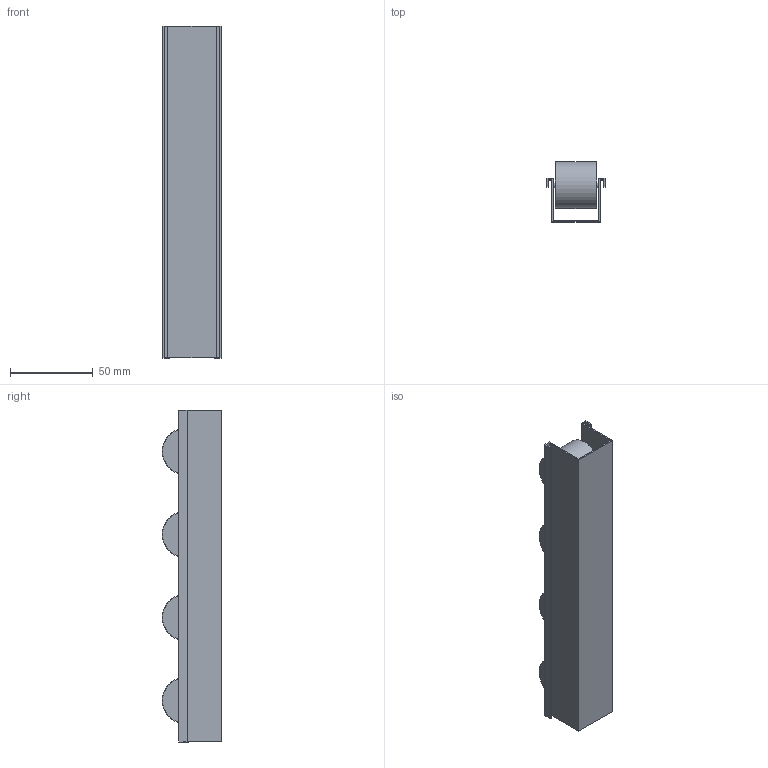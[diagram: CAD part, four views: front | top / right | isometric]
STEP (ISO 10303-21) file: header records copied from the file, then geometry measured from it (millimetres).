
FILE_DESCRIPTION (( 'STEP AP214' ), '1' );
FILE_NAME ('1.8054 Rullakisko ESD.STEP', '2025-09-18T09:02:14', ( '' ), ( '' ), 'SwSTEP 2.0', 'SolidWorks 2025', '' );
FILE_SCHEMA (( 'AUTOMOTIVE_DESIGN' ));
Length unit declared in the file: millimetre
Products named in the file (1): 1.8054 Rullakisko ESD
Bounding box: 35 x 36 x 200 mm (x, y, z)
Volume: 76641.7 mm3; surface area: 51727.3 mm2
Topology: 5 solids, 5 shells, 74 faces, 152 edges, 96 vertices
Faces by surface type: plane 34, cylinder 24, torus 16
Entity records: 2841 total; most frequent: DIRECTION 382, CARTESIAN_POINT 323, ORIENTED_EDGE 304, AXIS2_PLACEMENT_3D 155, EDGE_CURVE 152, VERTEX_POINT 96, EDGE_LOOP 82, CIRCLE 80
